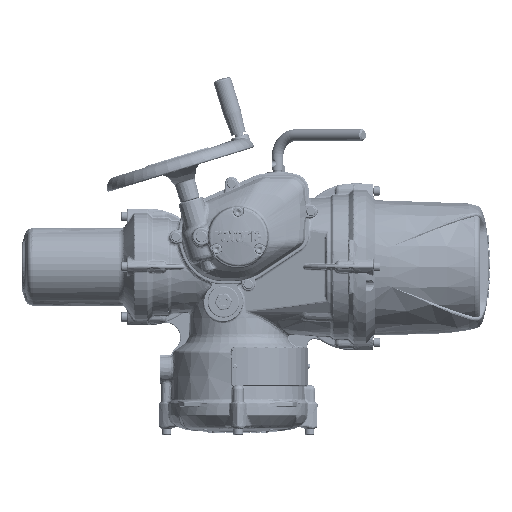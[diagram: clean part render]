
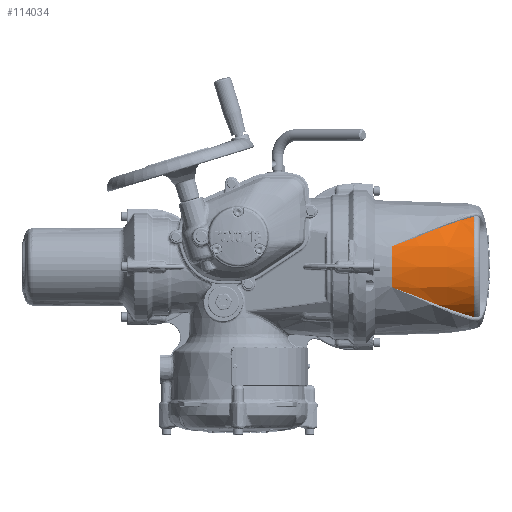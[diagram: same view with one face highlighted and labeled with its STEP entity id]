
A CAD part, top view. The second image highlights one B-rep face of the part: STEP entity #114034.
In plain terms, the highlighted conical face has half-angle 4.254 degrees and reference radius 90.612 mm.
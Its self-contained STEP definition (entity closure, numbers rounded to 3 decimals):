
#2940=CONICAL_SURFACE('',#120692,90.612,0.074);
#13168=B_SPLINE_CURVE_WITH_KNOTS('',3,(#224933,#224934,#224935,#224936,
#224937,#224938,#224939),.UNSPECIFIED.,.F.,.F.,(4,1,1,1,4),(0.,0.026,
0.053,0.079,0.106),.UNSPECIFIED.);
#13169=B_SPLINE_CURVE_WITH_KNOTS('',3,(#224941,#224942,#224943,#224944,
#224945,#224946,#224947),.UNSPECIFIED.,.F.,.F.,(4,1,1,1,4),(0.,0.25,0.5,
0.75,1.),.QUASI_UNIFORM_KNOTS.);
#13170=B_SPLINE_CURVE_WITH_KNOTS('',3,(#224949,#224950,#224951,#224952,
#224953,#224954,#224955),.UNSPECIFIED.,.F.,.F.,(4,1,1,1,4),(0.,0.25,0.5,
0.75,1.),.QUASI_UNIFORM_KNOTS.);
#13171=B_SPLINE_CURVE_WITH_KNOTS('',3,(#224959,#224960,#224961,#224962,
#224963,#224964,#224965),.UNSPECIFIED.,.F.,.F.,(4,1,1,1,4),(0.,0.25,0.5,
0.75,1.),.QUASI_UNIFORM_KNOTS.);
#13172=B_SPLINE_CURVE_WITH_KNOTS('',3,(#224967,#224968,#224969,#224970,
#224971,#224972,#224973),.UNSPECIFIED.,.F.,.F.,(4,1,1,1,4),(0.,0.25,0.5,
0.75,1.),.QUASI_UNIFORM_KNOTS.);
#13173=B_SPLINE_CURVE_WITH_KNOTS('',3,(#224975,#224976,#224977,#224978,
#224979,#224980,#224981),.UNSPECIFIED.,.F.,.F.,(4,1,1,1,4),(0.,0.026,
0.053,0.079,0.106),.UNSPECIFIED.);
#29060=ORIENTED_EDGE('',*,*,#46922,.T.);
#29061=ORIENTED_EDGE('',*,*,#46923,.T.);
#29062=ORIENTED_EDGE('',*,*,#46924,.T.);
#29063=ORIENTED_EDGE('',*,*,#46925,.T.);
#29064=ORIENTED_EDGE('',*,*,#46926,.T.);
#29065=ORIENTED_EDGE('',*,*,#46927,.T.);
#29066=ORIENTED_EDGE('',*,*,#46928,.T.);
#29067=ORIENTED_EDGE('',*,*,#46929,.T.);
#46922=EDGE_CURVE('',#56470,#56471,#62510,.F.);
#46923=EDGE_CURVE('',#56471,#56472,#13168,.T.);
#46924=EDGE_CURVE('',#56472,#56473,#13169,.T.);
#46925=EDGE_CURVE('',#56473,#56474,#13170,.T.);
#46926=EDGE_CURVE('',#56474,#56475,#62511,.F.);
#46927=EDGE_CURVE('',#56475,#56476,#13171,.T.);
#46928=EDGE_CURVE('',#56476,#56477,#13172,.T.);
#46929=EDGE_CURVE('',#56477,#56470,#13173,.T.);
#56470=VERTEX_POINT('',#224931);
#56471=VERTEX_POINT('',#224932);
#56472=VERTEX_POINT('',#224940);
#56473=VERTEX_POINT('',#224948);
#56474=VERTEX_POINT('',#224956);
#56475=VERTEX_POINT('',#224958);
#56476=VERTEX_POINT('',#224966);
#56477=VERTEX_POINT('',#224974);
#62510=CIRCLE('',#120693,90.463);
#62511=CIRCLE('',#120694,82.051);
#67376=EDGE_LOOP('',(#29060,#29061,#29062,#29063,#29064,#29065,#29066,#29067));
#73241=FACE_BOUND('',#67376,.T.);
#114034=ADVANCED_FACE('',(#73241),#2940,.T.);
#120692=AXIS2_PLACEMENT_3D('',#224929,#133860,#133861);
#120693=AXIS2_PLACEMENT_3D('',#224930,#133862,#133863);
#120694=AXIS2_PLACEMENT_3D('',#224957,#133864,#133865);
#133860=DIRECTION('',(0.,0.,-1.));
#133861=DIRECTION('',(-1.,0.,0.));
#133862=DIRECTION('',(0.,0.,-1.));
#133863=DIRECTION('',(-1.,0.,0.));
#133864=DIRECTION('',(0.,0.,1.));
#133865=DIRECTION('',(1.,0.,0.));
#224929=CARTESIAN_POINT('',(0.,0.,45.));
#224930=CARTESIAN_POINT('',(0.,0.,47.011));
#224931=CARTESIAN_POINT('',(28.102,86.03,46.997));
#224932=CARTESIAN_POINT('',(-28.102,86.03,46.997));
#224933=CARTESIAN_POINT('',(-28.053,86.003,47.011));
#224934=CARTESIAN_POINT('',(-30.71,84.489,55.283));
#224935=CARTESIAN_POINT('',(-36.798,80.913,71.448));
#224936=CARTESIAN_POINT('',(-46.529,73.736,94.977));
#224937=CARTESIAN_POINT('',(-55.736,64.846,117.994));
#224938=CARTESIAN_POINT('',(-61.111,57.872,133.224));
#224939=CARTESIAN_POINT('',(-63.54,54.148,140.843));
#224940=CARTESIAN_POINT('',(-63.54,54.148,140.843));
#224941=CARTESIAN_POINT('',(-63.54,54.148,140.843));
#224942=CARTESIAN_POINT('',(-64.052,53.363,142.449));
#224943=CARTESIAN_POINT('',(-65.052,51.775,145.659));
#224944=CARTESIAN_POINT('',(-66.476,49.335,150.471));
#224945=CARTESIAN_POINT('',(-67.823,46.839,155.282));
#224946=CARTESIAN_POINT('',(-68.668,45.139,158.489));
#224947=CARTESIAN_POINT('',(-69.077,44.28,160.093));
#224948=CARTESIAN_POINT('',(-68.702,45.058,158.635));
#224949=CARTESIAN_POINT('',(-63.54,54.148,140.843));
#224950=CARTESIAN_POINT('',(-64.052,53.363,142.449));
#224951=CARTESIAN_POINT('',(-65.052,51.775,145.659));
#224952=CARTESIAN_POINT('',(-66.476,49.335,150.471));
#224953=CARTESIAN_POINT('',(-67.823,46.839,155.282));
#224954=CARTESIAN_POINT('',(-68.668,45.139,158.489));
#224955=CARTESIAN_POINT('',(-69.077,44.28,160.093));
#224956=CARTESIAN_POINT('',(-69.077,44.28,160.093));
#224957=CARTESIAN_POINT('',(0.,0.,160.093));
#224958=CARTESIAN_POINT('',(69.077,44.28,160.093));
#224959=CARTESIAN_POINT('',(69.077,44.28,160.093));
#224960=CARTESIAN_POINT('',(68.669,45.138,158.491));
#224961=CARTESIAN_POINT('',(67.824,46.837,155.285));
#224962=CARTESIAN_POINT('',(66.477,49.333,150.475));
#224963=CARTESIAN_POINT('',(65.053,51.773,145.662));
#224964=CARTESIAN_POINT('',(64.052,53.363,142.45));
#224965=CARTESIAN_POINT('',(63.54,54.148,140.843));
#224966=CARTESIAN_POINT('',(68.702,45.058,158.635));
#224967=CARTESIAN_POINT('',(69.077,44.28,160.093));
#224968=CARTESIAN_POINT('',(68.669,45.138,158.491));
#224969=CARTESIAN_POINT('',(67.824,46.837,155.285));
#224970=CARTESIAN_POINT('',(66.477,49.333,150.475));
#224971=CARTESIAN_POINT('',(65.053,51.773,145.662));
#224972=CARTESIAN_POINT('',(64.052,53.363,142.45));
#224973=CARTESIAN_POINT('',(63.54,54.148,140.843));
#224974=CARTESIAN_POINT('',(63.54,54.148,140.843));
#224975=CARTESIAN_POINT('',(63.54,54.148,140.843));
#224976=CARTESIAN_POINT('',(61.115,57.866,133.236));
#224977=CARTESIAN_POINT('',(55.736,64.85,117.989));
#224978=CARTESIAN_POINT('',(46.491,73.769,94.884));
#224979=CARTESIAN_POINT('',(36.775,80.926,71.389));
#224980=CARTESIAN_POINT('',(30.709,84.49,55.28));
#224981=CARTESIAN_POINT('',(28.053,86.003,47.011));
